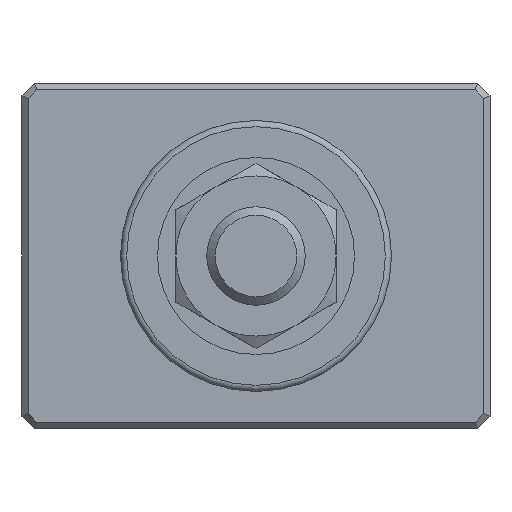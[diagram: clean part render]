
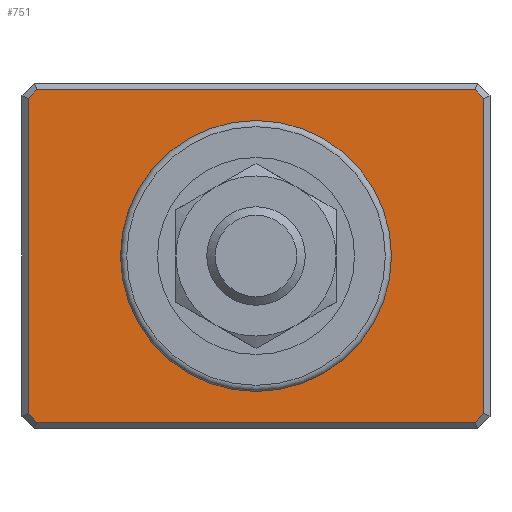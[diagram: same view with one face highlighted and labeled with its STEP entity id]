
A CAD part, front view. The second image highlights one B-rep face of the part: STEP entity #751.
In plain terms, the highlighted planar face has unit normal (0, -1, 0).
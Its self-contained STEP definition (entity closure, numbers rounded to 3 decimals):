
#503=CARTESIAN_POINT('',(-18.5,-13.,-12.793));
#504=VERTEX_POINT('',#503);
#511=CARTESIAN_POINT('',(-18.5,-13.,12.793));
#512=VERTEX_POINT('',#511);
#513=CARTESIAN_POINT('',(-18.5,-13.,-12.793));
#514=DIRECTION('',(0.0,0.0,1.0));
#515=VECTOR('',#514,25.586);
#516=LINE('',#513,#515);
#517=EDGE_CURVE('',#504,#512,#516,.T.);
#533=CARTESIAN_POINT('',(-17.793,-13.,-13.5));
#534=VERTEX_POINT('',#533);
#535=CARTESIAN_POINT('',(-17.793,-13.,-13.5));
#536=DIRECTION('',(-0.707,0.0,0.707));
#537=VECTOR('',#536,1.);
#538=LINE('',#535,#537);
#539=EDGE_CURVE('',#534,#504,#538,.T.);
#564=CARTESIAN_POINT('',(17.793,-13.,-13.5));
#565=VERTEX_POINT('',#564);
#566=CARTESIAN_POINT('',(17.793,-13.,-13.5));
#567=DIRECTION('',(-1.0,0.0,0.0));
#568=VECTOR('',#567,35.586);
#569=LINE('',#566,#568);
#570=EDGE_CURVE('',#565,#534,#569,.T.);
#595=CARTESIAN_POINT('',(17.793,-13.,13.5));
#596=VERTEX_POINT('',#595);
#597=CARTESIAN_POINT('',(18.5,-13.,12.793));
#598=VERTEX_POINT('',#597);
#599=CARTESIAN_POINT('',(17.793,-13.,13.5));
#600=DIRECTION('',(0.707,0.0,-0.707));
#601=VECTOR('',#600,1.);
#602=LINE('',#599,#601);
#603=EDGE_CURVE('',#596,#598,#602,.T.);
#628=CARTESIAN_POINT('',(18.5,-13.,-12.793));
#629=VERTEX_POINT('',#628);
#630=CARTESIAN_POINT('',(18.5,-13.,12.793));
#631=DIRECTION('',(0.0,0.0,-1.0));
#632=VECTOR('',#631,25.586);
#633=LINE('',#630,#632);
#634=EDGE_CURVE('',#598,#629,#633,.T.);
#650=CARTESIAN_POINT('',(18.5,-13.,-12.793));
#651=DIRECTION('',(-0.707,0.0,-0.707));
#652=VECTOR('',#651,1.);
#653=LINE('',#650,#652);
#654=EDGE_CURVE('',#629,#565,#653,.T.);
#672=CARTESIAN_POINT('',(-17.793,-13.,13.5));
#673=VERTEX_POINT('',#672);
#674=CARTESIAN_POINT('',(-17.793,-13.,13.5));
#675=DIRECTION('',(1.0,0.0,0.0));
#676=VECTOR('',#675,35.586);
#677=LINE('',#674,#676);
#678=EDGE_CURVE('',#673,#596,#677,.T.);
#696=CARTESIAN_POINT('',(-18.5,-13.,12.793));
#697=DIRECTION('',(0.707,0.0,0.707));
#698=VECTOR('',#697,1.);
#699=LINE('',#696,#698);
#700=EDGE_CURVE('',#512,#673,#699,.T.);
#725=CARTESIAN_POINT('',(0.0,-13.,-14.));
#726=DIRECTION('',(0.0,-1.0,0.0));
#727=DIRECTION('',(0.0,0.0,-1.0));
#728=AXIS2_PLACEMENT_3D('',#725,#726,#727);
#729=PLANE('',#728);
#730=ORIENTED_EDGE('',*,*,#603,.F.);
#731=ORIENTED_EDGE('',*,*,#678,.F.);
#732=ORIENTED_EDGE('',*,*,#700,.F.);
#733=ORIENTED_EDGE('',*,*,#517,.F.);
#734=ORIENTED_EDGE('',*,*,#539,.F.);
#735=ORIENTED_EDGE('',*,*,#570,.F.);
#736=ORIENTED_EDGE('',*,*,#654,.F.);
#737=ORIENTED_EDGE('',*,*,#634,.F.);
#738=EDGE_LOOP('',(#730,#731,#732,#733,#734,#735,#736,#737));
#739=FACE_OUTER_BOUND('',#738,.T.);
#740=CARTESIAN_POINT('',(0.0,-13.,11.));
#741=VERTEX_POINT('',#740);
#742=CARTESIAN_POINT('',(0.0,-13.,0.0));
#743=DIRECTION('',(0.0,1.0,0.0));
#744=DIRECTION('',(0.0,0.0,1.0));
#745=AXIS2_PLACEMENT_3D('',#742,#743,#744);
#746=CIRCLE('',#745,11.0);
#747=EDGE_CURVE('',#741,#741,#746,.T.);
#748=ORIENTED_EDGE('',*,*,#747,.T.);
#749=EDGE_LOOP('',(#748));
#750=FACE_BOUND('',#749,.T.);
#751=ADVANCED_FACE('',(#739,#750),#729,.T.);
